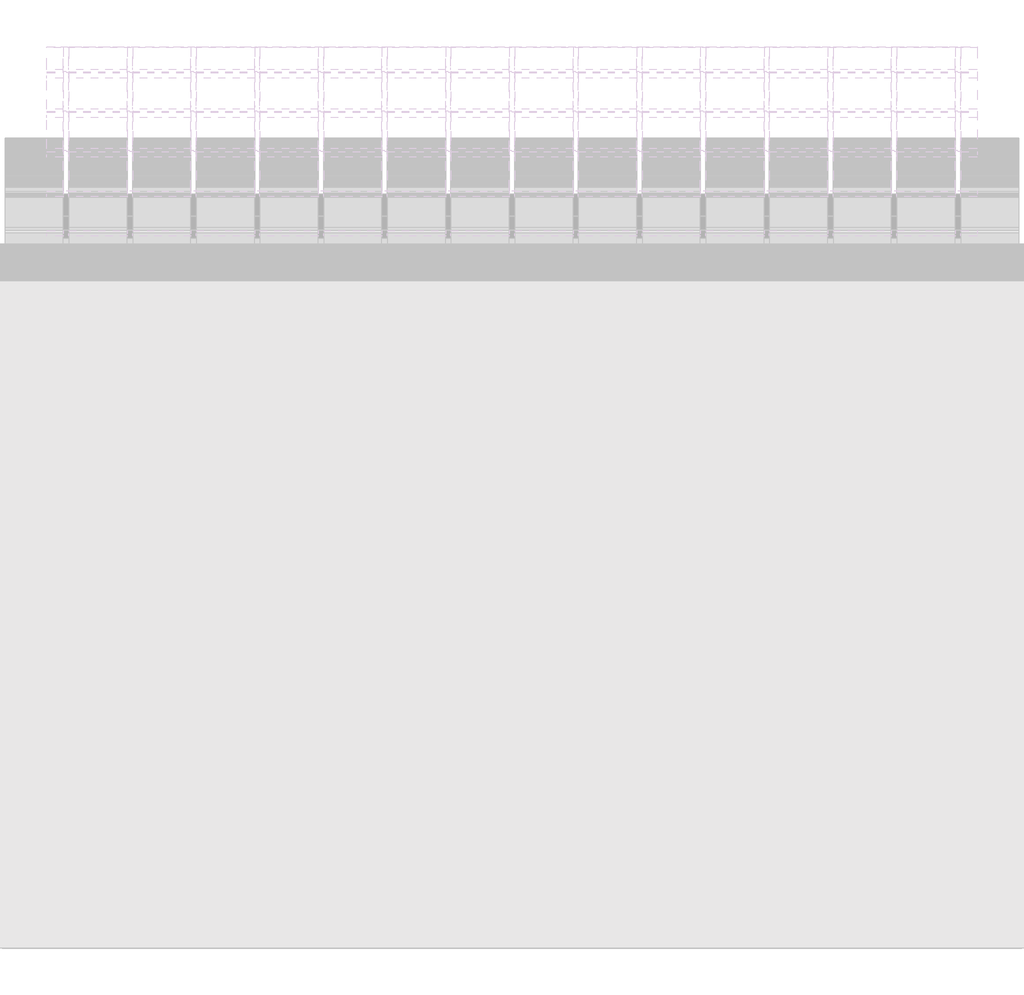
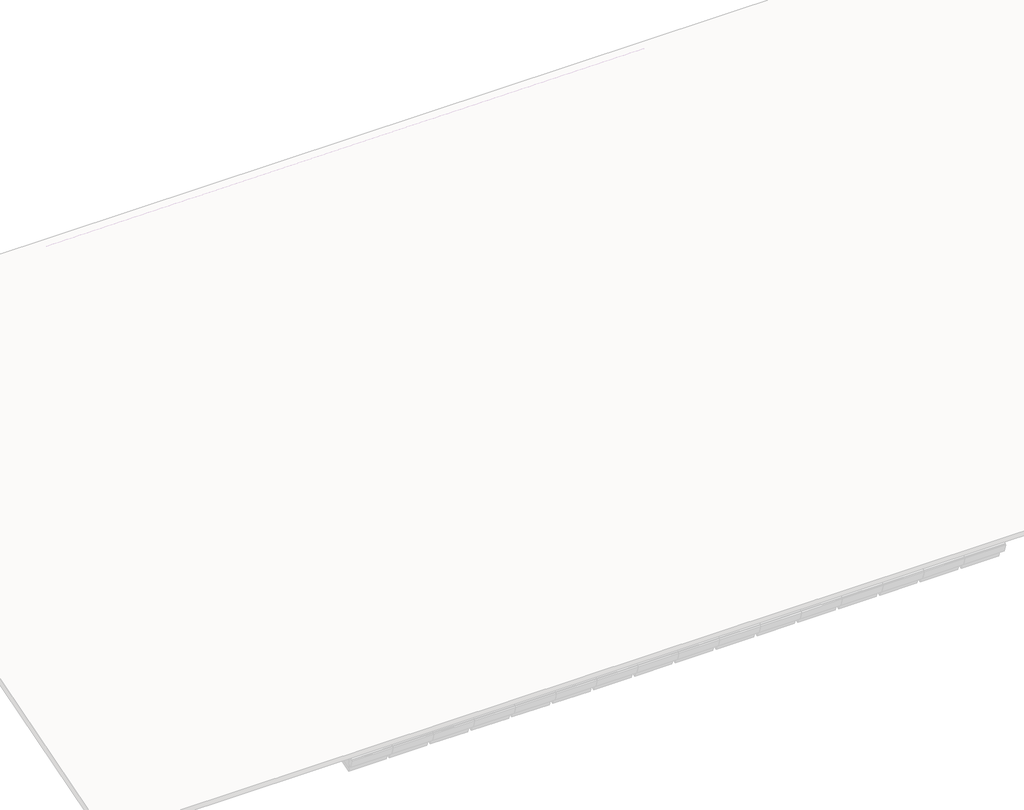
# One storey, part 16 of 57: 82 members, 42 plates.
"""IFC4 building model written with IfcOpenShell, lengths in millimetres."""

from ifc_helpers import new_model, si_unit, origin, place, context, project, spatial, transform, mapped, element, save
from components import rectangular_mullion_59984080, rectangular_mullion_2d2423ea, rectangular_mullion_caibro_e4384bba, rectangular_mullion_caibro_0993a3cf, rectangular_mullion_caibro_9bd7bc61, empty_system_panel_vazio_178faf58, empty_system_panel_vazio_2c78850d

model = new_model("IFC4")

# Units and contexts
model_context = context("Model", 3, world=origin())
ifc_project = project(units=[si_unit("LENGTHUNIT", "METRE", prefix="MILLI")], contexts=[model_context])

# Site, building, storey
site = spatial("IfcSite", under=ifc_project)
building = spatial("IfcBuilding", under=site)
storey = spatial("IfcBuildingStorey", under=building, Name="Nível 2", Elevation=4100.0)

# Members
placement = place(None, origin())
rectangular_mullion_shape = rectangular_mullion_59984080(model_context)
element("IfcMember", 1, ObjectType="Rectangular Mullion : Ripa", at=placement, inside=storey, context=model_context, shape_type="MappedRepresentation", body=[
    mapped(rectangular_mullion_shape, transform((11926.6115114, 9643.2923041, 4043.0368698), x_axis=(0.0, 0.9578262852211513, 0.2873478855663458), y_axis=(0.0, 0.2873478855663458, -0.9578262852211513), z_axis=(-1.0, 0.0, 0.0))),
])
element("IfcMember", 2, ObjectType="Rectangular Mullion : Ripa", at=placement, inside=storey, context=model_context, shape_type="MappedRepresentation", body=[
    mapped(rectangular_mullion_shape, transform((8344.2829728, 10013.4695628, 4154.0900474), x_axis=(0.0, 0.9578262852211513, 0.2873478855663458), y_axis=(0.0, 0.2873478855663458, -0.9578262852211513), z_axis=(-1.0, 0.0, 0.0))),
])
element("IfcMember", 3, ObjectType="Rectangular Mullion : Ripa", at=placement, inside=storey, context=model_context, shape_type="MappedRepresentation", body=[
    mapped(rectangular_mullion_shape, transform((8941.3377293, 10013.4695628, 4154.0900474), x_axis=(0.0, 0.9578262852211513, 0.2873478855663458), y_axis=(0.0, 0.2873478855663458, -0.9578262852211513), z_axis=(-1.0, 0.0, 0.0))),
])
element("IfcMember", 4, ObjectType="Rectangular Mullion : Ripa", at=placement, inside=storey, context=model_context, shape_type="MappedRepresentation", body=[
    mapped(rectangular_mullion_shape, transform((9538.3924857, 10013.4695628, 4154.0900474), x_axis=(0.0, 0.9578262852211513, 0.2873478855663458), y_axis=(0.0, 0.2873478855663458, -0.9578262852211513), z_axis=(-1.0, 0.0, 0.0))),
])
element("IfcMember", 5, ObjectType="Rectangular Mullion : Ripa", at=placement, inside=storey, context=model_context, shape_type="MappedRepresentation", body=[
    mapped(rectangular_mullion_shape, transform((10135.4472421, 10013.4695628, 4154.0900474), x_axis=(0.0, 0.9578262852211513, 0.2873478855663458), y_axis=(0.0, 0.2873478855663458, -0.9578262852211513), z_axis=(-1.0, 0.0, 0.0))),
])
element("IfcMember", 6, ObjectType="Rectangular Mullion : Ripa", at=placement, inside=storey, context=model_context, shape_type="MappedRepresentation", body=[
    mapped(rectangular_mullion_shape, transform((10732.5019985, 10013.4695628, 4154.0900474), x_axis=(0.0, 0.9578262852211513, 0.2873478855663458), y_axis=(0.0, 0.2873478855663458, -0.9578262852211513), z_axis=(-1.0, 0.0, 0.0))),
])
element("IfcMember", 7, ObjectType="Rectangular Mullion : Ripa", at=placement, inside=storey, context=model_context, shape_type="MappedRepresentation", body=[
    mapped(rectangular_mullion_shape, transform((11329.556755, 10013.4695628, 4154.0900474), x_axis=(0.0, 0.9578262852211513, 0.2873478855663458), y_axis=(0.0, 0.2873478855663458, -0.9578262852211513), z_axis=(-1.0, 0.0, 0.0))),
])
element("IfcMember", 8, ObjectType="Rectangular Mullion : Ripa", at=placement, inside=storey, context=model_context, shape_type="MappedRepresentation", body=[
    mapped(rectangular_mullion_shape, transform((11926.6115114, 10013.4695628, 4154.0900474), x_axis=(0.0, 0.9578262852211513, 0.2873478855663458), y_axis=(0.0, 0.2873478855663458, -0.9578262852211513), z_axis=(-1.0, 0.0, 0.0))),
])
element("IfcMember", 9, ObjectType="Rectangular Mullion : Ripa", at=placement, inside=storey, context=model_context, shape_type="MappedRepresentation", body=[
    mapped(rectangular_mullion_shape, transform((8344.2829728, 10383.6468214, 4265.143225), x_axis=(0.0, 0.9578262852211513, 0.2873478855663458), y_axis=(0.0, 0.2873478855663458, -0.9578262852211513), z_axis=(-1.0, 0.0, 0.0))),
])
element("IfcMember", 10, ObjectType="Rectangular Mullion : Ripa", at=placement, inside=storey, context=model_context, shape_type="MappedRepresentation", body=[
    mapped(rectangular_mullion_shape, transform((8941.3377293, 10383.6468214, 4265.143225), x_axis=(0.0, 0.9578262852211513, 0.2873478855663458), y_axis=(0.0, 0.2873478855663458, -0.9578262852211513), z_axis=(-1.0, 0.0, 0.0))),
])
element("IfcMember", 11, ObjectType="Rectangular Mullion : Ripa", at=placement, inside=storey, context=model_context, shape_type="MappedRepresentation", body=[
    mapped(rectangular_mullion_shape, transform((9538.3924857, 10383.6468214, 4265.143225), x_axis=(0.0, 0.9578262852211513, 0.2873478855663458), y_axis=(0.0, 0.2873478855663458, -0.9578262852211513), z_axis=(-1.0, 0.0, 0.0))),
])
element("IfcMember", 12, ObjectType="Rectangular Mullion : Ripa", at=placement, inside=storey, context=model_context, shape_type="MappedRepresentation", body=[
    mapped(rectangular_mullion_shape, transform((10135.4472421, 10383.6468214, 4265.143225), x_axis=(0.0, 0.9578262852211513, 0.2873478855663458), y_axis=(0.0, 0.2873478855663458, -0.9578262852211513), z_axis=(-1.0, 0.0, 0.0))),
])
element("IfcMember", 13, ObjectType="Rectangular Mullion : Ripa", at=placement, inside=storey, context=model_context, shape_type="MappedRepresentation", body=[
    mapped(rectangular_mullion_shape, transform((10732.5019985, 10383.6468214, 4265.143225), x_axis=(0.0, 0.9578262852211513, 0.2873478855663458), y_axis=(0.0, 0.2873478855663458, -0.9578262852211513), z_axis=(-1.0, 0.0, 0.0))),
])
element("IfcMember", 14, ObjectType="Rectangular Mullion : Ripa", at=placement, inside=storey, context=model_context, shape_type="MappedRepresentation", body=[
    mapped(rectangular_mullion_shape, transform((11329.556755, 10383.6468214, 4265.143225), x_axis=(0.0, 0.9578262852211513, 0.2873478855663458), y_axis=(0.0, 0.2873478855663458, -0.9578262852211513), z_axis=(-1.0, 0.0, 0.0))),
])
element("IfcMember", 15, ObjectType="Rectangular Mullion : Ripa", at=placement, inside=storey, context=model_context, shape_type="MappedRepresentation", body=[
    mapped(rectangular_mullion_shape, transform((11926.6115114, 10383.6468214, 4265.143225), x_axis=(0.0, 0.9578262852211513, 0.2873478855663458), y_axis=(0.0, 0.2873478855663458, -0.9578262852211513), z_axis=(-1.0, 0.0, 0.0))),
])
element("IfcMember", 16, ObjectType="Rectangular Mullion : Ripa", at=placement, inside=storey, context=model_context, shape_type="MappedRepresentation", body=[
    mapped(rectangular_mullion_shape, transform((8344.2829728, 10753.8240801, 4376.1964026), x_axis=(0.0, 0.9578262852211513, 0.2873478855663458), y_axis=(0.0, 0.2873478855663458, -0.9578262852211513), z_axis=(-1.0, 0.0, 0.0))),
])
element("IfcMember", 17, ObjectType="Rectangular Mullion : Ripa", at=placement, inside=storey, context=model_context, shape_type="MappedRepresentation", body=[
    mapped(rectangular_mullion_shape, transform((8941.3377293, 10753.8240801, 4376.1964026), x_axis=(0.0, 0.9578262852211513, 0.2873478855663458), y_axis=(0.0, 0.2873478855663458, -0.9578262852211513), z_axis=(-1.0, 0.0, 0.0))),
])
element("IfcMember", 18, ObjectType="Rectangular Mullion : Ripa", at=placement, inside=storey, context=model_context, shape_type="MappedRepresentation", body=[
    mapped(rectangular_mullion_shape, transform((9538.3924857, 10753.8240801, 4376.1964026), x_axis=(0.0, 0.9578262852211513, 0.2873478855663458), y_axis=(0.0, 0.2873478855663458, -0.9578262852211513), z_axis=(-1.0, 0.0, 0.0))),
])
element("IfcMember", 19, ObjectType="Rectangular Mullion : Ripa", at=placement, inside=storey, context=model_context, shape_type="MappedRepresentation", body=[
    mapped(rectangular_mullion_shape, transform((10135.4472421, 10753.8240801, 4376.1964026), x_axis=(0.0, 0.9578262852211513, 0.2873478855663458), y_axis=(0.0, 0.2873478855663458, -0.9578262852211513), z_axis=(-1.0, 0.0, 0.0))),
])
element("IfcMember", 20, ObjectType="Rectangular Mullion : Ripa", at=placement, inside=storey, context=model_context, shape_type="MappedRepresentation", body=[
    mapped(rectangular_mullion_shape, transform((10732.5019985, 10753.8240801, 4376.1964026), x_axis=(0.0, 0.9578262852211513, 0.2873478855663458), y_axis=(0.0, 0.2873478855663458, -0.9578262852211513), z_axis=(-1.0, 0.0, 0.0))),
])
element("IfcMember", 21, ObjectType="Rectangular Mullion : Ripa", at=placement, inside=storey, context=model_context, shape_type="MappedRepresentation", body=[
    mapped(rectangular_mullion_shape, transform((11329.556755, 10753.8240801, 4376.1964026), x_axis=(0.0, 0.9578262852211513, 0.2873478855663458), y_axis=(0.0, 0.2873478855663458, -0.9578262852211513), z_axis=(-1.0, 0.0, 0.0))),
])
element("IfcMember", 22, ObjectType="Rectangular Mullion : Ripa", at=placement, inside=storey, context=model_context, shape_type="MappedRepresentation", body=[
    mapped(rectangular_mullion_shape, transform((11926.6115114, 10753.8240801, 4376.1964026), x_axis=(0.0, 0.9578262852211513, 0.2873478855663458), y_axis=(0.0, 0.2873478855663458, -0.9578262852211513), z_axis=(-1.0, 0.0, 0.0))),
])
element("IfcMember", 23, ObjectType="Rectangular Mullion : Ripa", at=placement, inside=storey, context=model_context, shape_type="MappedRepresentation", body=[
    mapped(rectangular_mullion_shape, transform((8344.2829728, 11124.0013387, 4487.2495802), x_axis=(0.0, 0.9578262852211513, 0.2873478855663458), y_axis=(0.0, 0.2873478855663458, -0.9578262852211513), z_axis=(-1.0, 0.0, 0.0))),
])
element("IfcMember", 24, ObjectType="Rectangular Mullion : Ripa", at=placement, inside=storey, context=model_context, shape_type="MappedRepresentation", body=[
    mapped(rectangular_mullion_shape, transform((8941.3377293, 11124.0013387, 4487.2495802), x_axis=(0.0, 0.9578262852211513, 0.2873478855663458), y_axis=(0.0, 0.2873478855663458, -0.9578262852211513), z_axis=(-1.0, 0.0, 0.0))),
])
element("IfcMember", 25, ObjectType="Rectangular Mullion : Ripa", at=placement, inside=storey, context=model_context, shape_type="MappedRepresentation", body=[
    mapped(rectangular_mullion_shape, transform((9538.3924857, 11124.0013387, 4487.2495802), x_axis=(0.0, 0.9578262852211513, 0.2873478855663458), y_axis=(0.0, 0.2873478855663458, -0.9578262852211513), z_axis=(-1.0, 0.0, 0.0))),
])
element("IfcMember", 26, ObjectType="Rectangular Mullion : Ripa", at=placement, inside=storey, context=model_context, shape_type="MappedRepresentation", body=[
    mapped(rectangular_mullion_shape, transform((10135.4472421, 11124.0013387, 4487.2495802), x_axis=(0.0, 0.9578262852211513, 0.2873478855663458), y_axis=(0.0, 0.2873478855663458, -0.9578262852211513), z_axis=(-1.0, 0.0, 0.0))),
])
element("IfcMember", 27, ObjectType="Rectangular Mullion : Ripa", at=placement, inside=storey, context=model_context, shape_type="MappedRepresentation", body=[
    mapped(rectangular_mullion_shape, transform((10732.5019985, 11124.0013387, 4487.2495802), x_axis=(0.0, 0.9578262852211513, 0.2873478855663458), y_axis=(0.0, 0.2873478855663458, -0.9578262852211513), z_axis=(-1.0, 0.0, 0.0))),
])
element("IfcMember", 28, ObjectType="Rectangular Mullion : Ripa", at=placement, inside=storey, context=model_context, shape_type="MappedRepresentation", body=[
    mapped(rectangular_mullion_shape, transform((8344.2829728, 11494.1785974, 4598.3027578), x_axis=(0.0, 0.9578262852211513, 0.2873478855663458), y_axis=(0.0, 0.2873478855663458, -0.9578262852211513), z_axis=(-1.0, 0.0, 0.0))),
])
element("IfcMember", 29, ObjectType="Rectangular Mullion : Ripa", at=placement, inside=storey, context=model_context, shape_type="MappedRepresentation", body=[
    mapped(rectangular_mullion_shape, transform((8941.3377293, 11494.1785974, 4598.3027578), x_axis=(0.0, 0.9578262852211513, 0.2873478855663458), y_axis=(0.0, 0.2873478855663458, -0.9578262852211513), z_axis=(-1.0, 0.0, 0.0))),
])
element("IfcMember", 30, ObjectType="Rectangular Mullion : Ripa", at=placement, inside=storey, context=model_context, shape_type="MappedRepresentation", body=[
    mapped(rectangular_mullion_shape, transform((9538.3924857, 11494.1785974, 4598.3027578), x_axis=(0.0, 0.9578262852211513, 0.2873478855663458), y_axis=(0.0, 0.2873478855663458, -0.9578262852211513), z_axis=(-1.0, 0.0, 0.0))),
])
element("IfcMember", 31, ObjectType="Rectangular Mullion : Ripa", at=placement, inside=storey, context=model_context, shape_type="MappedRepresentation", body=[
    mapped(rectangular_mullion_shape, transform((10135.4472421, 11494.1785974, 4598.3027578), x_axis=(0.0, 0.9578262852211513, 0.2873478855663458), y_axis=(0.0, 0.2873478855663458, -0.9578262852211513), z_axis=(-1.0, 0.0, 0.0))),
])
element("IfcMember", 32, ObjectType="Rectangular Mullion : Ripa", at=placement, inside=storey, context=model_context, shape_type="MappedRepresentation", body=[
    mapped(rectangular_mullion_shape, transform((10732.5019985, 11494.1785974, 4598.3027578), x_axis=(0.0, 0.9578262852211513, 0.2873478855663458), y_axis=(0.0, 0.2873478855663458, -0.9578262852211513), z_axis=(-1.0, 0.0, 0.0))),
])
element("IfcMember", 33, ObjectType="Rectangular Mullion : Ripa", at=placement, inside=storey, context=model_context, shape_type="MappedRepresentation", body=[
    mapped(rectangular_mullion_shape, transform((8344.2829728, 11864.3558561, 4709.3559354), x_axis=(0.0, 0.9578262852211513, 0.2873478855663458), y_axis=(0.0, 0.2873478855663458, -0.9578262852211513), z_axis=(-1.0, 0.0, 0.0))),
])
element("IfcMember", 34, ObjectType="Rectangular Mullion : Ripa", at=placement, inside=storey, context=model_context, shape_type="MappedRepresentation", body=[
    mapped(rectangular_mullion_shape, transform((8941.3377293, 11864.3558561, 4709.3559354), x_axis=(0.0, 0.9578262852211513, 0.2873478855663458), y_axis=(0.0, 0.2873478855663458, -0.9578262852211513), z_axis=(-1.0, 0.0, 0.0))),
])
element("IfcMember", 35, ObjectType="Rectangular Mullion : Ripa", at=placement, inside=storey, context=model_context, shape_type="MappedRepresentation", body=[
    mapped(rectangular_mullion_shape, transform((9538.3924857, 11864.3558561, 4709.3559354), x_axis=(0.0, 0.9578262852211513, 0.2873478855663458), y_axis=(0.0, 0.2873478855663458, -0.9578262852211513), z_axis=(-1.0, 0.0, 0.0))),
])
element("IfcMember", 36, ObjectType="Rectangular Mullion : Ripa", at=placement, inside=storey, context=model_context, shape_type="MappedRepresentation", body=[
    mapped(rectangular_mullion_shape, transform((10135.4472421, 11864.3558561, 4709.3559354), x_axis=(0.0, 0.9578262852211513, 0.2873478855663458), y_axis=(0.0, 0.2873478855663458, -0.9578262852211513), z_axis=(-1.0, 0.0, 0.0))),
])
rectangular_mullion_2_shape = rectangular_mullion_2d2423ea(model_context)
element("IfcMember", 37, ObjectType="Rectangular Mullion : Terça", at=placement, inside=storey, context=model_context, shape_type="MappedRepresentation", body=[
    mapped(rectangular_mullion_2_shape, transform((11329.556755, 9159.0196393, 3835.1132313), x_axis=(0.0, 0.9578262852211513, 0.2873478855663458), y_axis=(0.0, 0.2873478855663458, -0.9578262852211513), z_axis=(-1.0, 0.0, 0.0))),
])
element("IfcMember", 38, ObjectType="Rectangular Mullion : Terça", at=placement, inside=storey, context=model_context, shape_type="MappedRepresentation", body=[
    mapped(rectangular_mullion_2_shape, transform((11926.6115114, 9159.0196393, 3835.1132313), x_axis=(0.0, 0.9578262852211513, 0.2873478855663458), y_axis=(0.0, 0.2873478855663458, -0.9578262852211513), z_axis=(-1.0, 0.0, 0.0))),
])
element("IfcMember", 39, ObjectType="Rectangular Mullion : Terça", at=placement, inside=storey, context=model_context, shape_type="MappedRepresentation", body=[
    mapped(rectangular_mullion_2_shape, transform((8344.2829728, 11285.144311, 4472.9506328), x_axis=(0.0, 0.9578262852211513, 0.2873478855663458), y_axis=(0.0, 0.2873478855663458, -0.9578262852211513), z_axis=(-1.0, 0.0, 0.0))),
])
element("IfcMember", 40, ObjectType="Rectangular Mullion : Terça", at=placement, inside=storey, context=model_context, shape_type="MappedRepresentation", body=[
    mapped(rectangular_mullion_2_shape, transform((8941.3377293, 11285.144311, 4472.9506328), x_axis=(0.0, 0.9578262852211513, 0.2873478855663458), y_axis=(0.0, 0.2873478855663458, -0.9578262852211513), z_axis=(-1.0, 0.0, 0.0))),
])
element("IfcMember", 41, ObjectType="Rectangular Mullion : Terça", at=placement, inside=storey, context=model_context, shape_type="MappedRepresentation", body=[
    mapped(rectangular_mullion_2_shape, transform((9538.3924857, 11285.144311, 4472.9506328), x_axis=(0.0, 0.9578262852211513, 0.2873478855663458), y_axis=(0.0, 0.2873478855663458, -0.9578262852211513), z_axis=(-1.0, 0.0, 0.0))),
])
rectangular_mullion_caibro_shape = rectangular_mullion_caibro_e4384bba(model_context)
element("IfcMember", 42, ObjectType="Rectangular Mullion : Caibro", at=placement, inside=storey, context=model_context, shape_type="MappedRepresentation", body=[
    mapped(rectangular_mullion_caibro_shape, transform((8319.2829728, 10013.4695628, 4154.0900474), x_axis=(1.0, 0.0, 0.0), y_axis=(0.0, 0.287347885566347, -0.9578262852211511), z_axis=(0.0, 0.9578262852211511, 0.287347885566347))),
])
element("IfcMember", 43, ObjectType="Rectangular Mullion : Caibro", at=placement, inside=storey, context=model_context, shape_type="MappedRepresentation", body=[
    mapped(rectangular_mullion_caibro_shape, transform((8319.2829728, 10383.6468214, 4265.143225), x_axis=(1.0, 0.0, 0.0), y_axis=(0.0, 0.28734788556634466, -0.9578262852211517), z_axis=(0.0, 0.9578262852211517, 0.28734788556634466))),
])
element("IfcMember", 44, ObjectType="Rectangular Mullion : Caibro", at=placement, inside=storey, context=model_context, shape_type="MappedRepresentation", body=[
    mapped(rectangular_mullion_caibro_shape, transform((8319.2829728, 10753.8240801, 4376.1964026), x_axis=(1.0, 0.0, 0.0), y_axis=(0.0, 0.28734788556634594, -0.9578262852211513), z_axis=(0.0, 0.9578262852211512, 0.2873478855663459))),
])
element("IfcMember", 45, ObjectType="Rectangular Mullion : Caibro", at=placement, inside=storey, context=model_context, shape_type="MappedRepresentation", body=[
    mapped(rectangular_mullion_caibro_shape, transform((8319.2829728, 11124.0013387, 4487.2495802), x_axis=(1.0, 0.0, 0.0), y_axis=(0.0, 0.28734788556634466, -0.9578262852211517), z_axis=(0.0, 0.9578262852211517, 0.28734788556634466))),
])
element("IfcMember", 46, ObjectType="Rectangular Mullion : Caibro", at=placement, inside=storey, context=model_context, shape_type="MappedRepresentation", body=[
    mapped(rectangular_mullion_caibro_shape, transform((8319.2829728, 11494.1785974, 4598.3027578), x_axis=(1.0, 0.0, 0.0), y_axis=(0.0, 0.287347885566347, -0.9578262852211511), z_axis=(0.0, 0.9578262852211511, 0.287347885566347))),
])
element("IfcMember", 47, ObjectType="Rectangular Mullion : Caibro", at=placement, inside=storey, context=model_context, shape_type="MappedRepresentation", body=[
    mapped(rectangular_mullion_caibro_shape, transform((8319.2829728, 11864.3558561, 4709.3559354), x_axis=(1.0, 0.0, 0.0), y_axis=(0.0, 0.28734788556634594, -0.9578262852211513), z_axis=(0.0, 0.9578262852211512, 0.2873478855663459))),
])
element("IfcMember", 48, ObjectType="Rectangular Mullion : Caibro", at=placement, inside=storey, context=model_context, shape_type="MappedRepresentation", body=[
    mapped(rectangular_mullion_caibro_shape, transform((8916.3377293, 10013.4695628, 4154.0900474), x_axis=(1.0, 0.0, 0.0), y_axis=(0.0, 0.287347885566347, -0.9578262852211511), z_axis=(0.0, 0.9578262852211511, 0.287347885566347))),
])
element("IfcMember", 49, ObjectType="Rectangular Mullion : Caibro", at=placement, inside=storey, context=model_context, shape_type="MappedRepresentation", body=[
    mapped(rectangular_mullion_caibro_shape, transform((8916.3377293, 10383.6468214, 4265.143225), x_axis=(1.0, 0.0, 0.0), y_axis=(0.0, 0.28734788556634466, -0.9578262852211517), z_axis=(0.0, 0.9578262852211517, 0.28734788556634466))),
])
element("IfcMember", 50, ObjectType="Rectangular Mullion : Caibro", at=placement, inside=storey, context=model_context, shape_type="MappedRepresentation", body=[
    mapped(rectangular_mullion_caibro_shape, transform((8916.3377293, 10753.8240801, 4376.1964026), x_axis=(1.0, 0.0, 0.0), y_axis=(0.0, 0.28734788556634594, -0.9578262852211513), z_axis=(0.0, 0.9578262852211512, 0.2873478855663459))),
])
element("IfcMember", 51, ObjectType="Rectangular Mullion : Caibro", at=placement, inside=storey, context=model_context, shape_type="MappedRepresentation", body=[
    mapped(rectangular_mullion_caibro_shape, transform((8916.3377293, 11124.0013387, 4487.2495802), x_axis=(1.0, 0.0, 0.0), y_axis=(0.0, 0.28734788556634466, -0.9578262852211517), z_axis=(0.0, 0.9578262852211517, 0.28734788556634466))),
])
element("IfcMember", 52, ObjectType="Rectangular Mullion : Caibro", at=placement, inside=storey, context=model_context, shape_type="MappedRepresentation", body=[
    mapped(rectangular_mullion_caibro_shape, transform((8916.3377293, 11494.1785974, 4598.3027578), x_axis=(1.0, 0.0, 0.0), y_axis=(0.0, 0.287347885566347, -0.9578262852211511), z_axis=(0.0, 0.9578262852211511, 0.287347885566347))),
])
element("IfcMember", 53, ObjectType="Rectangular Mullion : Caibro", at=placement, inside=storey, context=model_context, shape_type="MappedRepresentation", body=[
    mapped(rectangular_mullion_caibro_shape, transform((8916.3377293, 11864.3558561, 4709.3559354), x_axis=(1.0, 0.0, 0.0), y_axis=(0.0, 0.28734788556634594, -0.9578262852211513), z_axis=(0.0, 0.9578262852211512, 0.2873478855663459))),
])
element("IfcMember", 54, ObjectType="Rectangular Mullion : Caibro", at=placement, inside=storey, context=model_context, shape_type="MappedRepresentation", body=[
    mapped(rectangular_mullion_caibro_shape, transform((9513.3924857, 10013.4695628, 4154.0900474), x_axis=(1.0, 0.0, 0.0), y_axis=(0.0, 0.28734788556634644, -0.9578262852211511), z_axis=(0.0, 0.957826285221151, 0.2873478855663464))),
])
element("IfcMember", 55, ObjectType="Rectangular Mullion : Caibro", at=placement, inside=storey, context=model_context, shape_type="MappedRepresentation", body=[
    mapped(rectangular_mullion_caibro_shape, transform((9513.3924857, 10383.6468214, 4265.143225), x_axis=(1.0, 0.0, 0.0), y_axis=(0.0, 0.28734788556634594, -0.9578262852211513), z_axis=(0.0, 0.9578262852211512, 0.2873478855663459))),
])
element("IfcMember", 56, ObjectType="Rectangular Mullion : Caibro", at=placement, inside=storey, context=model_context, shape_type="MappedRepresentation", body=[
    mapped(rectangular_mullion_caibro_shape, transform((9513.3924857, 10753.8240801, 4376.1964026), x_axis=(1.0, 0.0, 0.0), y_axis=(0.0, 0.28734788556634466, -0.9578262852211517), z_axis=(0.0, 0.9578262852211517, 0.28734788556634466))),
])
element("IfcMember", 57, ObjectType="Rectangular Mullion : Caibro", at=placement, inside=storey, context=model_context, shape_type="MappedRepresentation", body=[
    mapped(rectangular_mullion_caibro_shape, transform((9513.3924857, 11124.0013387, 4487.2495802), x_axis=(1.0, 0.0, 0.0), y_axis=(0.0, 0.2873478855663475, -0.9578262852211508), z_axis=(0.0, 0.9578262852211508, 0.2873478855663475))),
])
element("IfcMember", 58, ObjectType="Rectangular Mullion : Caibro", at=placement, inside=storey, context=model_context, shape_type="MappedRepresentation", body=[
    mapped(rectangular_mullion_caibro_shape, transform((9513.3924857, 11494.1785974, 4598.3027578), x_axis=(1.0, 0.0, 0.0), y_axis=(0.0, 0.28734788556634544, -0.9578262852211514), z_axis=(0.0, 0.9578262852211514, 0.28734788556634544))),
])
element("IfcMember", 59, ObjectType="Rectangular Mullion : Caibro", at=placement, inside=storey, context=model_context, shape_type="MappedRepresentation", body=[
    mapped(rectangular_mullion_caibro_shape, transform((9513.3924857, 11864.3558561, 4709.3559354), x_axis=(1.0, 0.0, 0.0), y_axis=(0.0, 0.28734788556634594, -0.9578262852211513), z_axis=(0.0, 0.9578262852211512, 0.2873478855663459))),
])
element("IfcMember", 60, ObjectType="Rectangular Mullion : Caibro", at=placement, inside=storey, context=model_context, shape_type="MappedRepresentation", body=[
    mapped(rectangular_mullion_caibro_shape, transform((10110.4472421, 10013.4695628, 4154.0900474), x_axis=(1.0, 0.0, 0.0), y_axis=(0.0, 0.28734788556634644, -0.9578262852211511), z_axis=(0.0, 0.957826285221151, 0.2873478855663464))),
])
element("IfcMember", 61, ObjectType="Rectangular Mullion : Caibro", at=placement, inside=storey, context=model_context, shape_type="MappedRepresentation", body=[
    mapped(rectangular_mullion_caibro_shape, transform((10110.4472421, 10383.6468214, 4265.143225), x_axis=(1.0, 0.0, 0.0), y_axis=(0.0, 0.28734788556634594, -0.9578262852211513), z_axis=(0.0, 0.9578262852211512, 0.2873478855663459))),
])
element("IfcMember", 62, ObjectType="Rectangular Mullion : Caibro", at=placement, inside=storey, context=model_context, shape_type="MappedRepresentation", body=[
    mapped(rectangular_mullion_caibro_shape, transform((10110.4472421, 10753.8240801, 4376.1964026), x_axis=(1.0, 0.0, 0.0), y_axis=(0.0, 0.28734788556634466, -0.9578262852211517), z_axis=(0.0, 0.9578262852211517, 0.28734788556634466))),
])
element("IfcMember", 63, ObjectType="Rectangular Mullion : Caibro", at=placement, inside=storey, context=model_context, shape_type="MappedRepresentation", body=[
    mapped(rectangular_mullion_caibro_shape, transform((10110.4472421, 11124.0013387, 4487.2495802), x_axis=(1.0, 0.0, 0.0), y_axis=(0.0, 0.2873478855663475, -0.9578262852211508), z_axis=(0.0, 0.9578262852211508, 0.2873478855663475))),
])
element("IfcMember", 64, ObjectType="Rectangular Mullion : Caibro", at=placement, inside=storey, context=model_context, shape_type="MappedRepresentation", body=[
    mapped(rectangular_mullion_caibro_shape, transform((10110.4472421, 11494.1785974, 4598.3027578), x_axis=(1.0, 0.0, 0.0), y_axis=(0.0, 0.28734788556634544, -0.9578262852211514), z_axis=(0.0, 0.9578262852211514, 0.28734788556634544))),
])
element("IfcMember", 65, ObjectType="Rectangular Mullion : Caibro", at=placement, inside=storey, context=model_context, shape_type="MappedRepresentation", body=[
    mapped(rectangular_mullion_caibro_shape, transform((10110.4472421, 11864.3558561, 4709.3559354), x_axis=(1.0, 0.0, 0.0), y_axis=(0.0, 0.28734788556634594, -0.9578262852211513), z_axis=(0.0, 0.9578262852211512, 0.2873478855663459))),
])
element("IfcMember", 66, ObjectType="Rectangular Mullion : Caibro", at=placement, inside=storey, context=model_context, shape_type="MappedRepresentation", body=[
    mapped(rectangular_mullion_caibro_shape, transform((10707.5019985, 10013.4695628, 4154.0900474), x_axis=(1.0, 0.0, 0.0), y_axis=(0.0, 0.28734788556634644, -0.9578262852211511), z_axis=(0.0, 0.957826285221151, 0.2873478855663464))),
])
element("IfcMember", 67, ObjectType="Rectangular Mullion : Caibro", at=placement, inside=storey, context=model_context, shape_type="MappedRepresentation", body=[
    mapped(rectangular_mullion_caibro_shape, transform((10707.5019985, 10383.6468214, 4265.143225), x_axis=(1.0, 0.0, 0.0), y_axis=(0.0, 0.28734788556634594, -0.9578262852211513), z_axis=(0.0, 0.9578262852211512, 0.2873478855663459))),
])
element("IfcMember", 68, ObjectType="Rectangular Mullion : Caibro", at=placement, inside=storey, context=model_context, shape_type="MappedRepresentation", body=[
    mapped(rectangular_mullion_caibro_shape, transform((10707.5019985, 10753.8240801, 4376.1964026), x_axis=(1.0, 0.0, 0.0), y_axis=(0.0, 0.28734788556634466, -0.9578262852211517), z_axis=(0.0, 0.9578262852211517, 0.28734788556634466))),
])
element("IfcMember", 69, ObjectType="Rectangular Mullion : Caibro", at=placement, inside=storey, context=model_context, shape_type="MappedRepresentation", body=[
    mapped(rectangular_mullion_caibro_shape, transform((10707.5019985, 11124.0013387, 4487.2495802), x_axis=(1.0, 0.0, 0.0), y_axis=(0.0, 0.2873478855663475, -0.9578262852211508), z_axis=(0.0, 0.9578262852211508, 0.2873478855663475))),
])
element("IfcMember", 70, ObjectType="Rectangular Mullion : Caibro", at=placement, inside=storey, context=model_context, shape_type="MappedRepresentation", body=[
    mapped(rectangular_mullion_caibro_shape, transform((10707.5019985, 11494.1785974, 4598.3027578), x_axis=(1.0, 0.0, 0.0), y_axis=(0.0, 0.28734788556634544, -0.9578262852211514), z_axis=(0.0, 0.9578262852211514, 0.28734788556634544))),
])
element("IfcMember", 71, ObjectType="Rectangular Mullion : Caibro", at=placement, inside=storey, context=model_context, shape_type="MappedRepresentation", body=[
    mapped(rectangular_mullion_caibro_shape, transform((10707.5019985, 11864.3558561, 4709.3559354), x_axis=(1.0, 0.0, 0.0), y_axis=(0.0, 0.28734788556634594, -0.9578262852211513), z_axis=(0.0, 0.9578262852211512, 0.2873478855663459))),
])
element("IfcMember", 72, ObjectType="Rectangular Mullion : Caibro", at=placement, inside=storey, context=model_context, shape_type="MappedRepresentation", body=[
    mapped(rectangular_mullion_caibro_shape, transform((11304.556755, 10013.4695628, 4154.0900474), x_axis=(1.0, 0.0, 0.0), y_axis=(0.0, 0.28734788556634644, -0.9578262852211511), z_axis=(0.0, 0.957826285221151, 0.2873478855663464))),
])
element("IfcMember", 73, ObjectType="Rectangular Mullion : Caibro", at=placement, inside=storey, context=model_context, shape_type="MappedRepresentation", body=[
    mapped(rectangular_mullion_caibro_shape, transform((11304.556755, 10383.6468214, 4265.143225), x_axis=(1.0, 0.0, 0.0), y_axis=(0.0, 0.28734788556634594, -0.9578262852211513), z_axis=(0.0, 0.9578262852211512, 0.2873478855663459))),
])
element("IfcMember", 74, ObjectType="Rectangular Mullion : Caibro", at=placement, inside=storey, context=model_context, shape_type="MappedRepresentation", body=[
    mapped(rectangular_mullion_caibro_shape, transform((11304.556755, 10753.8240801, 4376.1964026), x_axis=(1.0, 0.0, 0.0), y_axis=(0.0, 0.28734788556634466, -0.9578262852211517), z_axis=(0.0, 0.9578262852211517, 0.28734788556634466))),
])
element("IfcMember", 75, ObjectType="Rectangular Mullion : Caibro", at=placement, inside=storey, context=model_context, shape_type="MappedRepresentation", body=[
    mapped(rectangular_mullion_caibro_shape, transform((11901.6115114, 10013.4695628, 4154.0900474), x_axis=(1.0, 0.0, 0.0), y_axis=(0.0, 0.28734788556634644, -0.9578262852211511), z_axis=(0.0, 0.957826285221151, 0.2873478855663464))),
])
element("IfcMember", 76, ObjectType="Rectangular Mullion : Caibro", at=placement, inside=storey, context=model_context, shape_type="MappedRepresentation", body=[
    mapped(rectangular_mullion_caibro_shape, transform((11901.6115114, 10383.6468214, 4265.143225), x_axis=(1.0, 0.0, 0.0), y_axis=(0.0, 0.28734788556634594, -0.9578262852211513), z_axis=(0.0, 0.9578262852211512, 0.2873478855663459))),
])
element("IfcMember", 77, ObjectType="Rectangular Mullion : Caibro", at=placement, inside=storey, context=model_context, shape_type="MappedRepresentation", body=[
    mapped(rectangular_mullion_caibro_shape, transform((11901.6115114, 10753.8240801, 4376.1964026), x_axis=(1.0, 0.0, 0.0), y_axis=(0.0, 0.28734788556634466, -0.9578262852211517), z_axis=(0.0, 0.9578262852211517, 0.28734788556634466))),
])
rectangular_mullion_caibro_2_shape = rectangular_mullion_caibro_0993a3cf(model_context)
element("IfcMember", 78, ObjectType="Rectangular Mullion : Caibro", at=placement, inside=storey, context=model_context, shape_type="MappedRepresentation", body=[
    mapped(rectangular_mullion_caibro_2_shape, transform((11304.556755, 9159.0196393, 3835.1132313), x_axis=(1.0, 0.0, 0.0), y_axis=(0.0, 0.2873478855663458, -0.9578262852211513), z_axis=(0.0, 0.9578262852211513, 0.2873478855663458))),
])
element("IfcMember", 79, ObjectType="Rectangular Mullion : Caibro", at=placement, inside=storey, context=model_context, shape_type="MappedRepresentation", body=[
    mapped(rectangular_mullion_caibro_2_shape, transform((11901.6115114, 9159.0196393, 3835.1132313), x_axis=(1.0, 0.0, 0.0), y_axis=(0.0, 0.2873478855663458, -0.9578262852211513), z_axis=(0.0, 0.9578262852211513, 0.2873478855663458))),
])
rectangular_mullion_caibro_3_shape = rectangular_mullion_caibro_9bd7bc61(model_context)
element("IfcMember", 80, ObjectType="Rectangular Mullion : Caibro", at=placement, inside=storey, context=model_context, shape_type="MappedRepresentation", body=[
    mapped(rectangular_mullion_caibro_3_shape, transform((8319.2829728, 11285.144311, 4472.9506328), x_axis=(1.0, 0.0, 0.0), y_axis=(0.0, 0.28734788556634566, -0.9578262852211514), z_axis=(0.0, 0.9578262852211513, 0.2873478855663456))),
])
element("IfcMember", 81, ObjectType="Rectangular Mullion : Caibro", at=placement, inside=storey, context=model_context, shape_type="MappedRepresentation", body=[
    mapped(rectangular_mullion_caibro_3_shape, transform((8916.3377293, 11285.144311, 4472.9506328), x_axis=(1.0, 0.0, 0.0), y_axis=(0.0, 0.28734788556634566, -0.9578262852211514), z_axis=(0.0, 0.9578262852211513, 0.2873478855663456))),
])
element("IfcMember", 82, ObjectType="Rectangular Mullion : Caibro", at=placement, inside=storey, context=model_context, shape_type="MappedRepresentation", body=[
    mapped(rectangular_mullion_caibro_3_shape, transform((9513.3924857, 11285.144311, 4472.9506328), x_axis=(1.0, 0.0, 0.0), y_axis=(0.0, 0.28734788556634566, -0.9578262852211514), z_axis=(0.0, 0.9578262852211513, 0.2873478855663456))),
])

# Plates
empty_system_panel_vazio_shape = empty_system_panel_vazio_178faf58(model_context)
element("IfcPlate", 83, ObjectType="Empty System Panel : Vazio", at=placement, inside=storey, context=model_context, shape_type="MappedRepresentation", body=[
    mapped(empty_system_panel_vazio_shape, transform((8020.7555946, 10013.4695628, 4154.0900474), x_axis=(1.0, 0.0, 0.0), y_axis=(0.0, 0.2873478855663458, -0.9578262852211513), z_axis=(0.0, 0.9578262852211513, 0.2873478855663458))),
])
element("IfcPlate", 84, ObjectType="Empty System Panel : Vazio", at=placement, inside=storey, context=model_context, shape_type="MappedRepresentation", body=[
    mapped(empty_system_panel_vazio_shape, transform((8617.810351, 10013.4695628, 4154.0900474), x_axis=(1.0, 0.0, 0.0), y_axis=(0.0, 0.2873478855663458, -0.9578262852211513), z_axis=(0.0, 0.9578262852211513, 0.2873478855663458))),
])
element("IfcPlate", 85, ObjectType="Empty System Panel : Vazio", at=placement, inside=storey, context=model_context, shape_type="MappedRepresentation", body=[
    mapped(empty_system_panel_vazio_shape, transform((9214.8651075, 10013.4695628, 4154.0900474), x_axis=(1.0, 0.0, 0.0), y_axis=(0.0, 0.2873478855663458, -0.9578262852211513), z_axis=(0.0, 0.9578262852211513, 0.2873478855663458))),
])
element("IfcPlate", 86, ObjectType="Empty System Panel : Vazio", at=placement, inside=storey, context=model_context, shape_type="MappedRepresentation", body=[
    mapped(empty_system_panel_vazio_shape, transform((9811.9198639, 10013.4695628, 4154.0900474), x_axis=(1.0, 0.0, 0.0), y_axis=(0.0, 0.2873478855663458, -0.9578262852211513), z_axis=(0.0, 0.9578262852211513, 0.2873478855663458))),
])
element("IfcPlate", 87, ObjectType="Empty System Panel : Vazio", at=placement, inside=storey, context=model_context, shape_type="MappedRepresentation", body=[
    mapped(empty_system_panel_vazio_shape, transform((10408.9746203, 10013.4695628, 4154.0900474), x_axis=(1.0, 0.0, 0.0), y_axis=(0.0, 0.2873478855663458, -0.9578262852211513), z_axis=(0.0, 0.9578262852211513, 0.2873478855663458))),
])
element("IfcPlate", 88, ObjectType="Empty System Panel : Vazio", at=placement, inside=storey, context=model_context, shape_type="MappedRepresentation", body=[
    mapped(empty_system_panel_vazio_shape, transform((11006.0293767, 10013.4695628, 4154.0900474), x_axis=(1.0, 0.0, 0.0), y_axis=(0.0, 0.2873478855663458, -0.9578262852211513), z_axis=(0.0, 0.9578262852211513, 0.2873478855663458))),
])
element("IfcPlate", 89, ObjectType="Empty System Panel : Vazio", at=placement, inside=storey, context=model_context, shape_type="MappedRepresentation", body=[
    mapped(empty_system_panel_vazio_shape, transform((11603.0841332, 10013.4695628, 4154.0900474), x_axis=(1.0, 0.0, 0.0), y_axis=(0.0, 0.2873478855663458, -0.9578262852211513), z_axis=(0.0, 0.9578262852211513, 0.2873478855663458))),
])
element("IfcPlate", 90, ObjectType="Empty System Panel : Vazio", at=placement, inside=storey, context=model_context, shape_type="MappedRepresentation", body=[
    mapped(empty_system_panel_vazio_shape, transform((8020.7555946, 10383.6468214, 4265.143225), x_axis=(1.0, 0.0, 0.0), y_axis=(0.0, 0.2873478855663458, -0.9578262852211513), z_axis=(0.0, 0.9578262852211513, 0.2873478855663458))),
])
element("IfcPlate", 91, ObjectType="Empty System Panel : Vazio", at=placement, inside=storey, context=model_context, shape_type="MappedRepresentation", body=[
    mapped(empty_system_panel_vazio_shape, transform((8617.810351, 10383.6468214, 4265.143225), x_axis=(1.0, 0.0, 0.0), y_axis=(0.0, 0.2873478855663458, -0.9578262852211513), z_axis=(0.0, 0.9578262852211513, 0.2873478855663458))),
])
element("IfcPlate", 92, ObjectType="Empty System Panel : Vazio", at=placement, inside=storey, context=model_context, shape_type="MappedRepresentation", body=[
    mapped(empty_system_panel_vazio_shape, transform((9214.8651075, 10383.6468214, 4265.143225), x_axis=(1.0, 0.0, 0.0), y_axis=(0.0, 0.2873478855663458, -0.9578262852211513), z_axis=(0.0, 0.9578262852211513, 0.2873478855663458))),
])
element("IfcPlate", 93, ObjectType="Empty System Panel : Vazio", at=placement, inside=storey, context=model_context, shape_type="MappedRepresentation", body=[
    mapped(empty_system_panel_vazio_shape, transform((9811.9198639, 10383.6468214, 4265.143225), x_axis=(1.0, 0.0, 0.0), y_axis=(0.0, 0.2873478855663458, -0.9578262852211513), z_axis=(0.0, 0.9578262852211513, 0.2873478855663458))),
])
element("IfcPlate", 94, ObjectType="Empty System Panel : Vazio", at=placement, inside=storey, context=model_context, shape_type="MappedRepresentation", body=[
    mapped(empty_system_panel_vazio_shape, transform((10408.9746203, 10383.6468214, 4265.143225), x_axis=(1.0, 0.0, 0.0), y_axis=(0.0, 0.2873478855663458, -0.9578262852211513), z_axis=(0.0, 0.9578262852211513, 0.2873478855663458))),
])
element("IfcPlate", 95, ObjectType="Empty System Panel : Vazio", at=placement, inside=storey, context=model_context, shape_type="MappedRepresentation", body=[
    mapped(empty_system_panel_vazio_shape, transform((11006.0293767, 10383.6468214, 4265.143225), x_axis=(1.0, 0.0, 0.0), y_axis=(0.0, 0.2873478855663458, -0.9578262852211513), z_axis=(0.0, 0.9578262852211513, 0.2873478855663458))),
])
element("IfcPlate", 96, ObjectType="Empty System Panel : Vazio", at=placement, inside=storey, context=model_context, shape_type="MappedRepresentation", body=[
    mapped(empty_system_panel_vazio_shape, transform((11603.0841332, 10383.6468214, 4265.143225), x_axis=(1.0, 0.0, 0.0), y_axis=(0.0, 0.2873478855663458, -0.9578262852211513), z_axis=(0.0, 0.9578262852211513, 0.2873478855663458))),
])
element("IfcPlate", 97, ObjectType="Empty System Panel : Vazio", at=placement, inside=storey, context=model_context, shape_type="MappedRepresentation", body=[
    mapped(empty_system_panel_vazio_shape, transform((8020.7555946, 10753.8240801, 4376.1964026), x_axis=(1.0, 0.0, 0.0), y_axis=(0.0, 0.2873478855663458, -0.9578262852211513), z_axis=(0.0, 0.9578262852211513, 0.2873478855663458))),
])
element("IfcPlate", 98, ObjectType="Empty System Panel : Vazio", at=placement, inside=storey, context=model_context, shape_type="MappedRepresentation", body=[
    mapped(empty_system_panel_vazio_shape, transform((8617.810351, 10753.8240801, 4376.1964026), x_axis=(1.0, 0.0, 0.0), y_axis=(0.0, 0.2873478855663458, -0.9578262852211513), z_axis=(0.0, 0.9578262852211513, 0.2873478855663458))),
])
element("IfcPlate", 99, ObjectType="Empty System Panel : Vazio", at=placement, inside=storey, context=model_context, shape_type="MappedRepresentation", body=[
    mapped(empty_system_panel_vazio_shape, transform((9214.8651075, 10753.8240801, 4376.1964026), x_axis=(1.0, 0.0, 0.0), y_axis=(0.0, 0.2873478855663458, -0.9578262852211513), z_axis=(0.0, 0.9578262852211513, 0.2873478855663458))),
])
element("IfcPlate", 100, ObjectType="Empty System Panel : Vazio", at=placement, inside=storey, context=model_context, shape_type="MappedRepresentation", body=[
    mapped(empty_system_panel_vazio_shape, transform((9811.9198639, 10753.8240801, 4376.1964026), x_axis=(1.0, 0.0, 0.0), y_axis=(0.0, 0.2873478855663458, -0.9578262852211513), z_axis=(0.0, 0.9578262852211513, 0.2873478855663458))),
])
element("IfcPlate", 101, ObjectType="Empty System Panel : Vazio", at=placement, inside=storey, context=model_context, shape_type="MappedRepresentation", body=[
    mapped(empty_system_panel_vazio_shape, transform((10408.9746203, 10753.8240801, 4376.1964026), x_axis=(1.0, 0.0, 0.0), y_axis=(0.0, 0.2873478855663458, -0.9578262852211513), z_axis=(0.0, 0.9578262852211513, 0.2873478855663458))),
])
element("IfcPlate", 102, ObjectType="Empty System Panel : Vazio", at=placement, inside=storey, context=model_context, shape_type="MappedRepresentation", body=[
    mapped(empty_system_panel_vazio_shape, transform((11006.0293767, 10753.8240801, 4376.1964026), x_axis=(1.0, 0.0, 0.0), y_axis=(0.0, 0.2873478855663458, -0.9578262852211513), z_axis=(0.0, 0.9578262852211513, 0.2873478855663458))),
])
element("IfcPlate", 103, ObjectType="Empty System Panel : Vazio", at=placement, inside=storey, context=model_context, shape_type="MappedRepresentation", body=[
    mapped(empty_system_panel_vazio_shape, transform((11603.0841332, 10753.8240801, 4376.1964026), x_axis=(1.0, 0.0, 0.0), y_axis=(0.0, 0.2873478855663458, -0.9578262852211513), z_axis=(0.0, 0.9578262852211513, 0.2873478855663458))),
])
element("IfcPlate", 104, ObjectType="Empty System Panel : Vazio", at=placement, inside=storey, context=model_context, shape_type="MappedRepresentation", body=[
    mapped(empty_system_panel_vazio_shape, transform((8020.7555946, 11124.0013387, 4487.2495802), x_axis=(1.0, 0.0, 0.0), y_axis=(0.0, 0.2873478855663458, -0.9578262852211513), z_axis=(0.0, 0.9578262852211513, 0.2873478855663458))),
])
element("IfcPlate", 105, ObjectType="Empty System Panel : Vazio", at=placement, inside=storey, context=model_context, shape_type="MappedRepresentation", body=[
    mapped(empty_system_panel_vazio_shape, transform((8617.810351, 11124.0013387, 4487.2495802), x_axis=(1.0, 0.0, 0.0), y_axis=(0.0, 0.2873478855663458, -0.9578262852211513), z_axis=(0.0, 0.9578262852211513, 0.2873478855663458))),
])
element("IfcPlate", 106, ObjectType="Empty System Panel : Vazio", at=placement, inside=storey, context=model_context, shape_type="MappedRepresentation", body=[
    mapped(empty_system_panel_vazio_shape, transform((9214.8651075, 11124.0013387, 4487.2495802), x_axis=(1.0, 0.0, 0.0), y_axis=(0.0, 0.2873478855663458, -0.9578262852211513), z_axis=(0.0, 0.9578262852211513, 0.2873478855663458))),
])
element("IfcPlate", 107, ObjectType="Empty System Panel : Vazio", at=placement, inside=storey, context=model_context, shape_type="MappedRepresentation", body=[
    mapped(empty_system_panel_vazio_shape, transform((9811.9198639, 11124.0013387, 4487.2495802), x_axis=(1.0, 0.0, 0.0), y_axis=(0.0, 0.2873478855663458, -0.9578262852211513), z_axis=(0.0, 0.9578262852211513, 0.2873478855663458))),
])
element("IfcPlate", 108, ObjectType="Empty System Panel : Vazio", at=placement, inside=storey, context=model_context, shape_type="MappedRepresentation", body=[
    mapped(empty_system_panel_vazio_shape, transform((10408.9746203, 11124.0013387, 4487.2495802), x_axis=(1.0, 0.0, 0.0), y_axis=(0.0, 0.2873478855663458, -0.9578262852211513), z_axis=(0.0, 0.9578262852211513, 0.2873478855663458))),
])
element("IfcPlate", 109, ObjectType="Empty System Panel : Vazio", at=placement, inside=storey, context=model_context, shape_type="MappedRepresentation", body=[
    mapped(empty_system_panel_vazio_shape, transform((8020.7555946, 11494.1785974, 4598.3027578), x_axis=(1.0, 0.0, 0.0), y_axis=(0.0, 0.2873478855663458, -0.9578262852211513), z_axis=(0.0, 0.9578262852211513, 0.2873478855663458))),
])
element("IfcPlate", 110, ObjectType="Empty System Panel : Vazio", at=placement, inside=storey, context=model_context, shape_type="MappedRepresentation", body=[
    mapped(empty_system_panel_vazio_shape, transform((8617.810351, 11494.1785974, 4598.3027578), x_axis=(1.0, 0.0, 0.0), y_axis=(0.0, 0.2873478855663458, -0.9578262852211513), z_axis=(0.0, 0.9578262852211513, 0.2873478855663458))),
])
element("IfcPlate", 111, ObjectType="Empty System Panel : Vazio", at=placement, inside=storey, context=model_context, shape_type="MappedRepresentation", body=[
    mapped(empty_system_panel_vazio_shape, transform((9214.8651075, 11494.1785974, 4598.3027578), x_axis=(1.0, 0.0, 0.0), y_axis=(0.0, 0.2873478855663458, -0.9578262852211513), z_axis=(0.0, 0.9578262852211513, 0.2873478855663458))),
])
element("IfcPlate", 112, ObjectType="Empty System Panel : Vazio", at=placement, inside=storey, context=model_context, shape_type="MappedRepresentation", body=[
    mapped(empty_system_panel_vazio_shape, transform((9811.9198639, 11494.1785974, 4598.3027578), x_axis=(1.0, 0.0, 0.0), y_axis=(0.0, 0.2873478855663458, -0.9578262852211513), z_axis=(0.0, 0.9578262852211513, 0.2873478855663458))),
])
element("IfcPlate", 113, ObjectType="Empty System Panel : Vazio", at=placement, inside=storey, context=model_context, shape_type="MappedRepresentation", body=[
    mapped(empty_system_panel_vazio_shape, transform((10408.9746203, 11494.1785974, 4598.3027578), x_axis=(1.0, 0.0, 0.0), y_axis=(0.0, 0.2873478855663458, -0.9578262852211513), z_axis=(0.0, 0.9578262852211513, 0.2873478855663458))),
])
element("IfcPlate", 114, ObjectType="Empty System Panel : Vazio", at=placement, inside=storey, context=model_context, shape_type="MappedRepresentation", body=[
    mapped(empty_system_panel_vazio_shape, transform((8020.7555946, 11864.3558561, 4709.3559354), x_axis=(1.0, 0.0, 0.0), y_axis=(0.0, 0.2873478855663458, -0.9578262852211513), z_axis=(0.0, 0.9578262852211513, 0.2873478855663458))),
])
element("IfcPlate", 115, ObjectType="Empty System Panel : Vazio", at=placement, inside=storey, context=model_context, shape_type="MappedRepresentation", body=[
    mapped(empty_system_panel_vazio_shape, transform((8617.810351, 11864.3558561, 4709.3559354), x_axis=(1.0, 0.0, 0.0), y_axis=(0.0, 0.2873478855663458, -0.9578262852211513), z_axis=(0.0, 0.9578262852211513, 0.2873478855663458))),
])
element("IfcPlate", 116, ObjectType="Empty System Panel : Vazio", at=placement, inside=storey, context=model_context, shape_type="MappedRepresentation", body=[
    mapped(empty_system_panel_vazio_shape, transform((9214.8651075, 11864.3558561, 4709.3559354), x_axis=(1.0, 0.0, 0.0), y_axis=(0.0, 0.2873478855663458, -0.9578262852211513), z_axis=(0.0, 0.9578262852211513, 0.2873478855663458))),
])
element("IfcPlate", 117, ObjectType="Empty System Panel : Vazio", at=placement, inside=storey, context=model_context, shape_type="MappedRepresentation", body=[
    mapped(empty_system_panel_vazio_shape, transform((9811.9198639, 11864.3558561, 4709.3559354), x_axis=(1.0, 0.0, 0.0), y_axis=(0.0, 0.2873478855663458, -0.9578262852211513), z_axis=(0.0, 0.9578262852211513, 0.2873478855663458))),
])
element("IfcPlate", 118, ObjectType="Empty System Panel : Vazio", at=placement, inside=storey, context=model_context, shape_type="MappedRepresentation", body=[
    mapped(empty_system_panel_vazio_shape, transform((10408.9746203, 11864.3558561, 4709.3559354), x_axis=(1.0, 0.0, 0.0), y_axis=(0.0, 0.2873478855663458, -0.9578262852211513), z_axis=(0.0, 0.9578262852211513, 0.2873478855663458))),
])
empty_system_panel_vazio_2_shape = empty_system_panel_vazio_2c78850d(model_context)
element("IfcPlate", 119, ObjectType="Empty System Panel : Vazio", at=placement, inside=storey, context=model_context, shape_type="MappedRepresentation", body=[
    mapped(empty_system_panel_vazio_2_shape, transform((11006.0293767, 9187.7544279, 3843.7336679), x_axis=(1.0, 0.0, 0.0), y_axis=(0.0, 0.2873478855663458, -0.9578262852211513), z_axis=(0.0, 0.9578262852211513, 0.2873478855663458))),
])
element("IfcPlate", 120, ObjectType="Empty System Panel : Vazio", at=placement, inside=storey, context=model_context, shape_type="MappedRepresentation", body=[
    mapped(empty_system_panel_vazio_2_shape, transform((11603.0841332, 9187.7544279, 3843.7336679), x_axis=(1.0, 0.0, 0.0), y_axis=(0.0, 0.2873478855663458, -0.9578262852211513), z_axis=(0.0, 0.9578262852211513, 0.2873478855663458))),
])
element("IfcPlate", 121, ObjectType="Empty System Panel : Vazio", at=placement, inside=storey, context=model_context, shape_type="MappedRepresentation", body=[
    mapped(empty_system_panel_vazio_2_shape, transform((8020.7555946, 11313.8790995, 4481.5710693), x_axis=(1.0, 0.0, 0.0), y_axis=(0.0, 0.2873478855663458, -0.9578262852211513), z_axis=(0.0, 0.9578262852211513, 0.2873478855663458))),
])
element("IfcPlate", 122, ObjectType="Empty System Panel : Vazio", at=placement, inside=storey, context=model_context, shape_type="MappedRepresentation", body=[
    mapped(empty_system_panel_vazio_2_shape, transform((8617.810351, 11313.8790995, 4481.5710693), x_axis=(1.0, 0.0, 0.0), y_axis=(0.0, 0.2873478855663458, -0.9578262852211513), z_axis=(0.0, 0.9578262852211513, 0.2873478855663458))),
])
element("IfcPlate", 123, ObjectType="Empty System Panel : Vazio", at=placement, inside=storey, context=model_context, shape_type="MappedRepresentation", body=[
    mapped(empty_system_panel_vazio_2_shape, transform((9214.8651075, 11313.8790995, 4481.5710693), x_axis=(1.0, 0.0, 0.0), y_axis=(0.0, 0.2873478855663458, -0.9578262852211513), z_axis=(0.0, 0.9578262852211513, 0.2873478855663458))),
])
element("IfcPlate", 124, ObjectType="Empty System Panel : Vazio", at=placement, inside=storey, context=model_context, shape_type="MappedRepresentation", body=[
    mapped(empty_system_panel_vazio_2_shape, transform((9811.9198639, 11313.8790995, 4481.5710693), x_axis=(1.0, 0.0, 0.0), y_axis=(0.0, 0.2873478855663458, -0.9578262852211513), z_axis=(0.0, 0.9578262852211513, 0.2873478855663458))),
])

save(model, "model.ifc")
